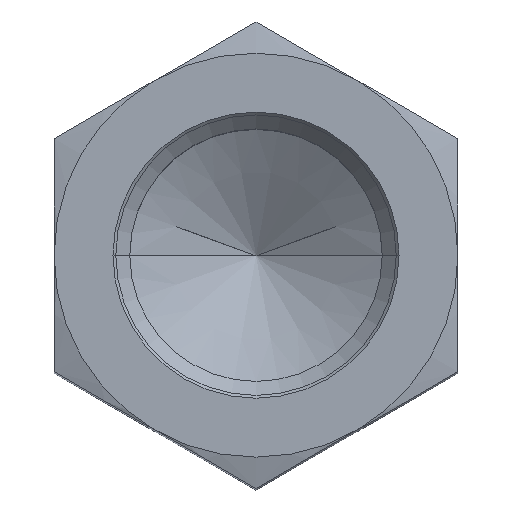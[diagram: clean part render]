
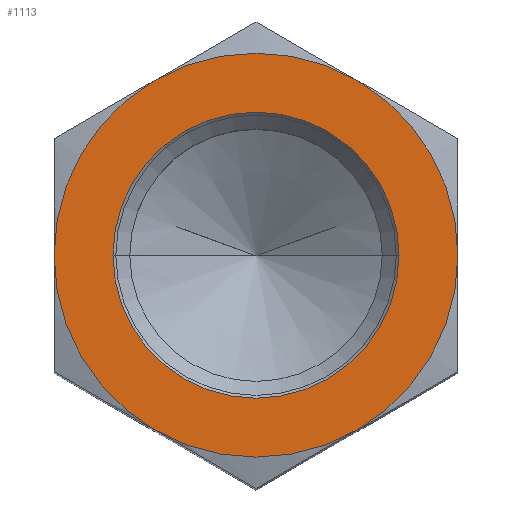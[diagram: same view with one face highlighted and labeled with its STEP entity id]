
A CAD part, top view. The second image highlights one B-rep face of the part: STEP entity #1113.
In plain terms, the highlighted planar face has unit normal (0, 0, 1).
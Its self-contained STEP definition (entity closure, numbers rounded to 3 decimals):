
#488=CARTESIAN_POINT('',(0.,0.,58.));
#489=DIRECTION('',(0.,0.,-1.));
#490=DIRECTION('',(1.,0.,0.));
#491=AXIS2_PLACEMENT_3D('',#488,#489,#490);
#496=CARTESIAN_POINT('',(0.,0.,58.));
#497=DIRECTION('',(0.,0.,-1.));
#498=DIRECTION('',(0.5,-0.866,0.));
#499=AXIS2_PLACEMENT_3D('',#496,#497,#498);
#504=CARTESIAN_POINT('',(0.,0.,58.));
#505=DIRECTION('',(0.,0.,-1.));
#506=DIRECTION('',(-0.5,-0.866,0.));
#507=AXIS2_PLACEMENT_3D('',#504,#505,#506);
#512=CARTESIAN_POINT('',(0.,0.,58.));
#513=DIRECTION('',(0.,0.,-1.));
#514=DIRECTION('',(-1.,0.,0.));
#515=AXIS2_PLACEMENT_3D('',#512,#513,#514);
#520=CARTESIAN_POINT('',(0.,0.,58.));
#521=DIRECTION('',(0.,0.,-1.));
#522=DIRECTION('',(-0.5,0.866,0.));
#523=AXIS2_PLACEMENT_3D('',#520,#521,#522);
#528=CARTESIAN_POINT('',(0.,0.,58.));
#529=DIRECTION('',(0.,0.,-1.));
#530=DIRECTION('',(0.5,0.866,0.));
#531=AXIS2_PLACEMENT_3D('',#528,#529,#530);
#536=CARTESIAN_POINT('',(0.,0.,58.));
#537=DIRECTION('',(0.,0.,1.));
#538=DIRECTION('',(-1.,0.,0.));
#539=AXIS2_PLACEMENT_3D('',#536,#537,#538);
#544=CARTESIAN_POINT('',(0.,0.,58.));
#545=DIRECTION('',(0.,0.,1.));
#546=DIRECTION('',(1.,0.,0.));
#547=AXIS2_PLACEMENT_3D('',#544,#545,#546);
#779=CARTESIAN_POINT('',(12.,0.,58.));
#780=CARTESIAN_POINT('',(6.,-10.392,58.));
#781=VERTEX_POINT('',#779);
#782=VERTEX_POINT('',#780);
#783=CARTESIAN_POINT('',(-6.,-10.392,58.));
#784=VERTEX_POINT('',#783);
#785=CARTESIAN_POINT('',(-12.,0.,58.));
#786=VERTEX_POINT('',#785);
#787=CARTESIAN_POINT('',(-6.,10.392,58.));
#788=VERTEX_POINT('',#787);
#789=CARTESIAN_POINT('',(6.,10.392,58.));
#790=VERTEX_POINT('',#789);
#819=CARTESIAN_POINT('',(-8.5,0.,58.));
#820=CARTESIAN_POINT('',(8.5,0.,58.));
#821=VERTEX_POINT('',#819);
#822=VERTEX_POINT('',#820);
#1091=CARTESIAN_POINT('',(0.,0.,58.));
#1092=DIRECTION('',(0.,0.,1.));
#1093=DIRECTION('',(1.,0.,0.));
#1094=AXIS2_PLACEMENT_3D('',#1091,#1092,#1093);
#1095=PLANE('',#1094);
#1097=ORIENTED_EDGE('',*,*,#1096,.T.);
#1099=ORIENTED_EDGE('',*,*,#1098,.T.);
#1101=ORIENTED_EDGE('',*,*,#1100,.T.);
#1102=ORIENTED_EDGE('',*,*,#1062,.T.);
#1103=ORIENTED_EDGE('',*,*,#1074,.T.);
#1104=ORIENTED_EDGE('',*,*,#1086,.T.);
#1105=EDGE_LOOP('',(#1097,#1099,#1101,#1102,#1103,#1104));
#1106=FACE_OUTER_BOUND('',#1105,.F.);
#1108=ORIENTED_EDGE('',*,*,#1107,.T.);
#1110=ORIENTED_EDGE('',*,*,#1109,.T.);
#1111=EDGE_LOOP('',(#1108,#1110));
#1112=FACE_BOUND('',#1111,.F.);
#492=CIRCLE('',#491,12.);
#500=CIRCLE('',#499,12.);
#508=CIRCLE('',#507,12.);
#516=CIRCLE('',#515,12.);
#524=CIRCLE('',#523,12.);
#532=CIRCLE('',#531,12.);
#540=CIRCLE('',#539,8.5);
#548=CIRCLE('',#547,8.5);
#1062=EDGE_CURVE('',#786,#788,#516,.T.);
#1074=EDGE_CURVE('',#788,#790,#524,.T.);
#1086=EDGE_CURVE('',#790,#781,#532,.T.);
#1096=EDGE_CURVE('',#781,#782,#492,.T.);
#1098=EDGE_CURVE('',#782,#784,#500,.T.);
#1100=EDGE_CURVE('',#784,#786,#508,.T.);
#1107=EDGE_CURVE('',#821,#822,#540,.T.);
#1109=EDGE_CURVE('',#822,#821,#548,.T.);
#1113=ADVANCED_FACE('',(#1106,#1112),#1095,.T.);
